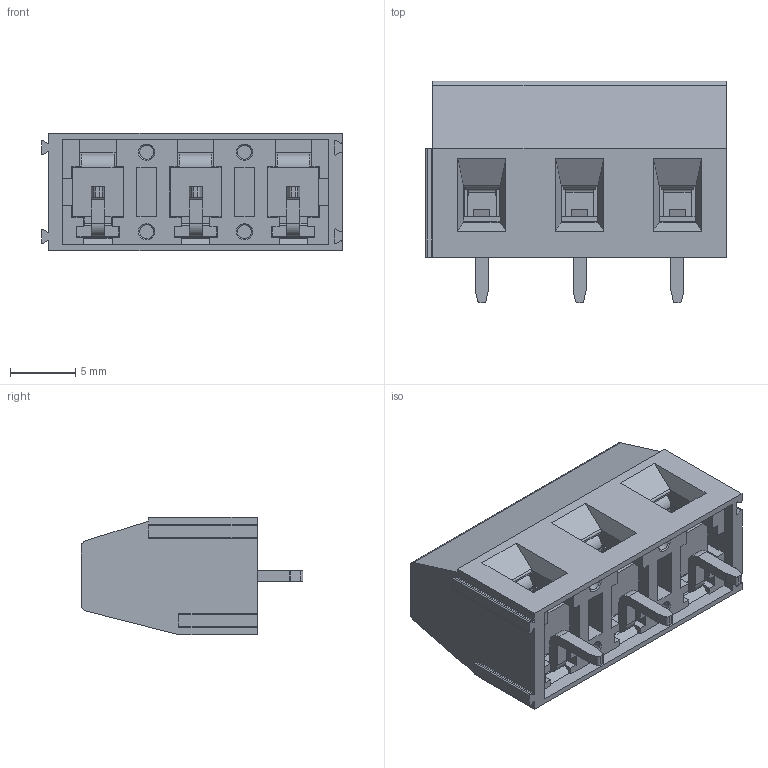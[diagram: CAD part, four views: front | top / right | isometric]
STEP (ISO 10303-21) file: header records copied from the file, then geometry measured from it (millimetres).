
FILE_DESCRIPTION((''),'2;1');
FILE_NAME('PRT0001','2021-04-22T',('guoxue_sz'),(''),'CREO PARAMETRIC BY PTC INC, 2016260','CREO PARAMETRIC BY PTC INC, 2016260','');
FILE_SCHEMA(('CONFIG_CONTROL_DESIGN'));
Length unit declared in the file: metre
Products named in the file (1): PRT0001
Bounding box: 23.05 x 17 x 9 mm (x, y, z)
Volume: 1697.8 mm3; surface area: 3277.8 mm2
Topology: 1 solids, 1 shells, 787 faces, 2321 edges, 1547 vertices
Faces by surface type: plane 468, cylinder 197, bspline 75, torus 27, cone 20
Entity records: 40169 total; most frequent: CARTESIAN_POINT 19616, ORIENTED_EDGE 4642, DIRECTION 3776, EDGE_CURVE 2321, VERTEX_POINT 1547, VECTOR 1468, LINE 1468, AXIS2_PLACEMENT_3D 1154
